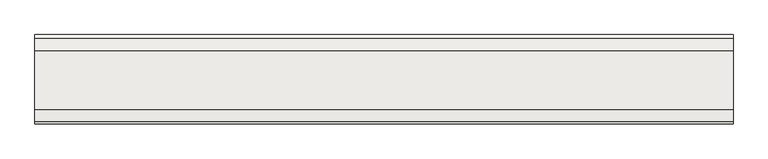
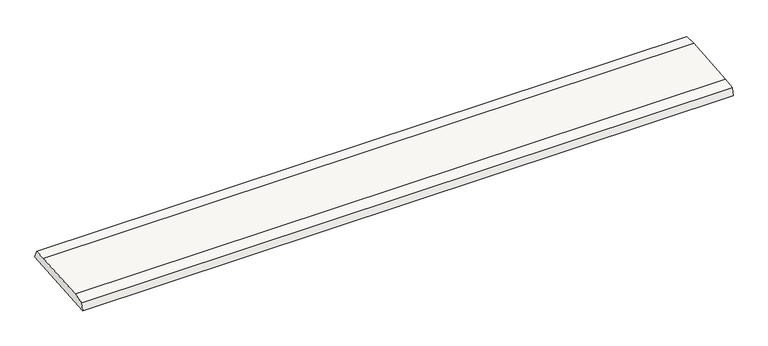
"""IFC4 building model written with IfcOpenShell, lengths in millimetres: slab geometry, ROSA GRES_I25_Inclinación : Pieza I25_Tao_Beige_Anti-Slip."""

from ifc_helpers import new_model, si_unit, point, frame, frame_2d, origin, place, context, project, spatial, polyline, circle_curve, trimmed, segment, composite_curve, outline, extrude, source, transform, mapped, element, save


def slab_562a9645(model_context):
    return source(origin(), model_context, "Body", "SweptSolid", [
        extrude(outline(composite_curve([segment(polyline([(239.502845, 41.5733833), (248.1421086, 20.183002), (0.0, 0.0), (5.0466881, 22.4539349)]), True, "CONTINUOUS"), segment(trimmed(circle_curve(frame_2d((142.3596866, -685.9166532)), 721.556477), [point((5.0466881, 22.4539349))], [point((40.5673305, 28.4236479))], False, "CARTESIAN"), True, "CONTINUOUS"), segment(polyline([(40.5673305, 28.4236479), (203.9346385, 41.7113673)]), True, "CONTINUOUS"), segment(trimmed(circle_curve(frame_2d((218.9203921, -679.689476)), 721.556477), [point((203.9346385, 41.7113673))], [point((239.502845, 41.5733833))], False, "CARTESIAN"), True, "CONTINUOUS")], self_intersect=False)), frame((0.0, 0.0, 0.0), z_axis=(1.0, 0.0, 0.0), x_axis=(0.0, 1.0, 0.0)), (0.0, 0.0, 1.0), 1940.0),
    ])


if __name__ == "__main__":
    model = new_model("IFC4")
    model_context = context("Model", 3, world=origin())
    ifc_project = project(units=[si_unit("LENGTHUNIT", "METRE", prefix="MILLI")], contexts=[model_context])
    site = spatial("IfcSite", under=ifc_project)
    building = spatial("IfcBuilding", under=site)
    placement = place(None, origin())
    slab_shape = slab_562a9645(model_context)
    element("IfcSlab", 1, ObjectType="ROSA GRES_I25_Inclinación : Pieza I25_Tao_Beige_Anti-Slip", at=placement, inside=building, context=model_context, shape_type="MappedRepresentation", body=[
        mapped(slab_shape, transform((0.0, 0.0, 0.0), x_axis=(1.0, 0.0, 0.0), y_axis=(0.0, 1.0, 0.0), z_axis=(0.0, 0.0, 1.0))),
    ])
    save(model, "model.ifc")
